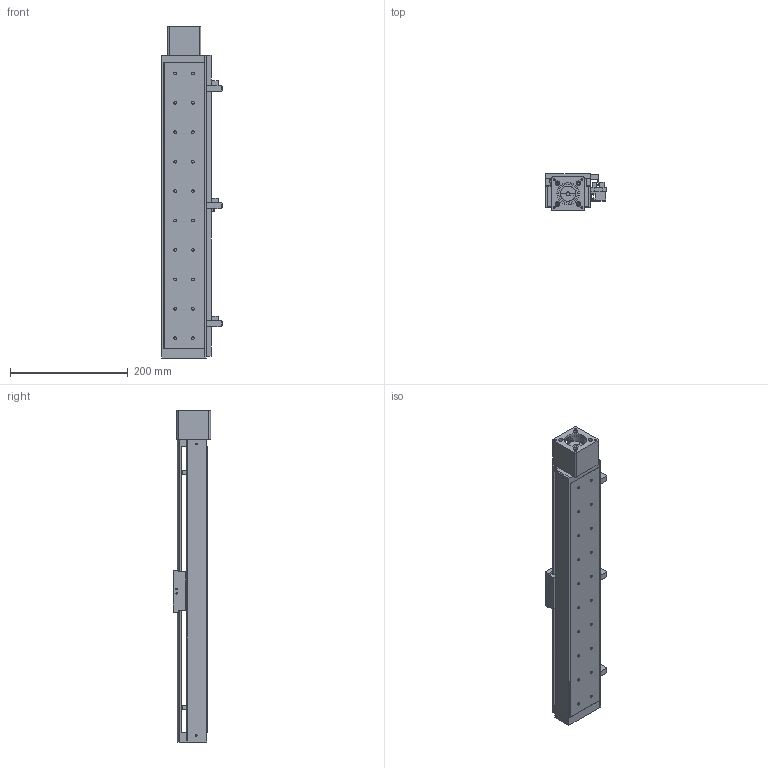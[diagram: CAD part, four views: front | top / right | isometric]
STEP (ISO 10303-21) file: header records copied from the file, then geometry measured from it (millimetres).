
FILE_DESCRIPTION((''),'2;1');
FILE_NAME('E:\uia actuator\UIA actuator 3d- 2009\Standard ball screw actuator\UIA076R9DC\UIA076R9DC-STEP file\with motor mount\UIA076R9DC step file 18Apr16\UIA076R9DC-400-R1205(or R1210)-M23-P13-C10-S.stp','2016-04-20T08:26:01',('h029'),(''),'Autodesk Inventor 11','Autodesk Inventor 11','');
FILE_SCHEMA(('AUTOMOTIVE_DESIGN { 1 0 10303 214 1 1 1 1 }'));
Length unit declared in the file: millimetre
Products named in the file (10): UIA076R9DC-400-R1205(or R1210)-M23-P13-C10-S; UIA076R9DC-400-BODY; UIA076R9DC-400-sensor rail; UIA076R9DC-CARRIAGE; UIA076R9DC-SENSOR FLAG; 01-100 0110 Motor MOUNT-M23; SOH-25C; SOH-25C-2; SOH-25C-3; SOH-25C-1
Assembly tree (9 placements, depth 3):
  UIA076R9DC-400-R1205(or R1210)-M23-P13-C10-S
    UIA076R9DC-400-BODY
    UIA076R9DC-400-sensor rail
    UIA076R9DC-CARRIAGE
    UIA076R9DC-SENSOR FLAG
    01-100 0110 Motor MOUNT-M23
    SOH-25C
      SOH-25C-2
      SOH-25C-3
      SOH-25C-1
Bounding box: 103 x 63 x 564 mm (x, y, z)
Volume: 857875.9 mm3; surface area: 343323.5 mm2
Topology: 8 solids, 8 shells, 440 faces, 1215 edges, 800 vertices
Faces by surface type: plane 295, cylinder 117, cone 21, bspline 7
Full cylindrical faces by diameter (mm): 2.459 x8, 3 x2, 3.242 x16, 3.5 x4, 4 x6, 4.5 x24, 6 x2, 7.5 x24, 22 x1, 25.5 x3, 32 x1, 37 x1, 38.1 x1
Entity records: 13874 total; most frequent: CARTESIAN_POINT 2732, DIRECTION 2218, ORIENTED_EDGE 2096, EDGE_CURVE 1048, VECTOR 760, LINE 760, VERTEX_POINT 753, AXIS2_PLACEMENT_3D 729
